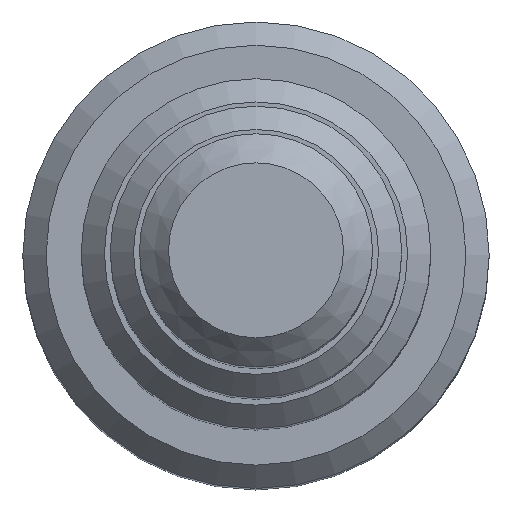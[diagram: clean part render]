
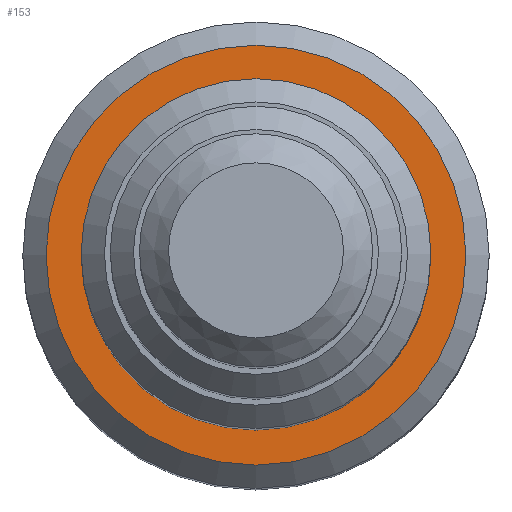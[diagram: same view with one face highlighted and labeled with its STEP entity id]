
A CAD part, top view. The second image highlights one B-rep face of the part: STEP entity #153.
In plain terms, the highlighted planar face has unit normal (0, 0, 1).
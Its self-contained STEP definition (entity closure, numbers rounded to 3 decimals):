
#32=ORIENTED_EDGE('',*,*,#58,.T.);
#33=ORIENTED_EDGE('',*,*,#59,.F.);
#58=EDGE_CURVE('',#71,#71,#84,.F.);
#59=EDGE_CURVE('',#72,#72,#85,.T.);
#71=VERTEX_POINT('',#272);
#72=VERTEX_POINT('',#274);
#84=CIRCLE('',#184,18.);
#85=CIRCLE('',#185,15.);
#97=EDGE_LOOP('',(#32));
#98=EDGE_LOOP('',(#33));
#123=FACE_BOUND('',#97,.T.);
#124=FACE_BOUND('',#98,.T.);
#147=PLANE('',#183);
#153=ADVANCED_FACE('',(#123,#124),#147,.F.);
#183=AXIS2_PLACEMENT_3D('',#270,#217,#218);
#184=AXIS2_PLACEMENT_3D('',#271,#219,#220);
#185=AXIS2_PLACEMENT_3D('',#273,#221,#222);
#217=DIRECTION('',(0.,0.,-1.));
#218=DIRECTION('',(-1.,0.,0.));
#219=DIRECTION('',(0.,0.,-1.));
#220=DIRECTION('',(-1.,0.,0.));
#221=DIRECTION('',(0.,0.,1.));
#222=DIRECTION('',(1.,0.,0.));
#270=CARTESIAN_POINT('',(20.,0.,80.));
#271=CARTESIAN_POINT('',(0.,0.,80.));
#272=CARTESIAN_POINT('',(-18.,0.,80.));
#273=CARTESIAN_POINT('',(0.,0.,80.));
#274=CARTESIAN_POINT('',(15.,0.,80.));
